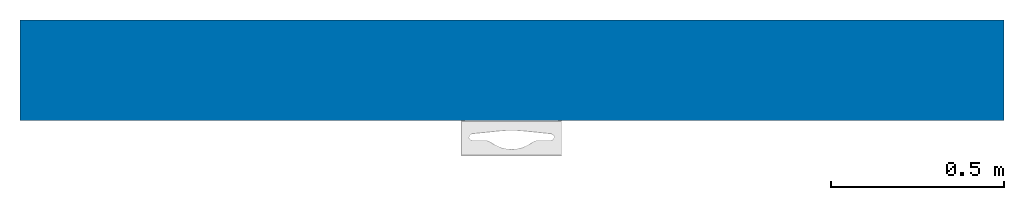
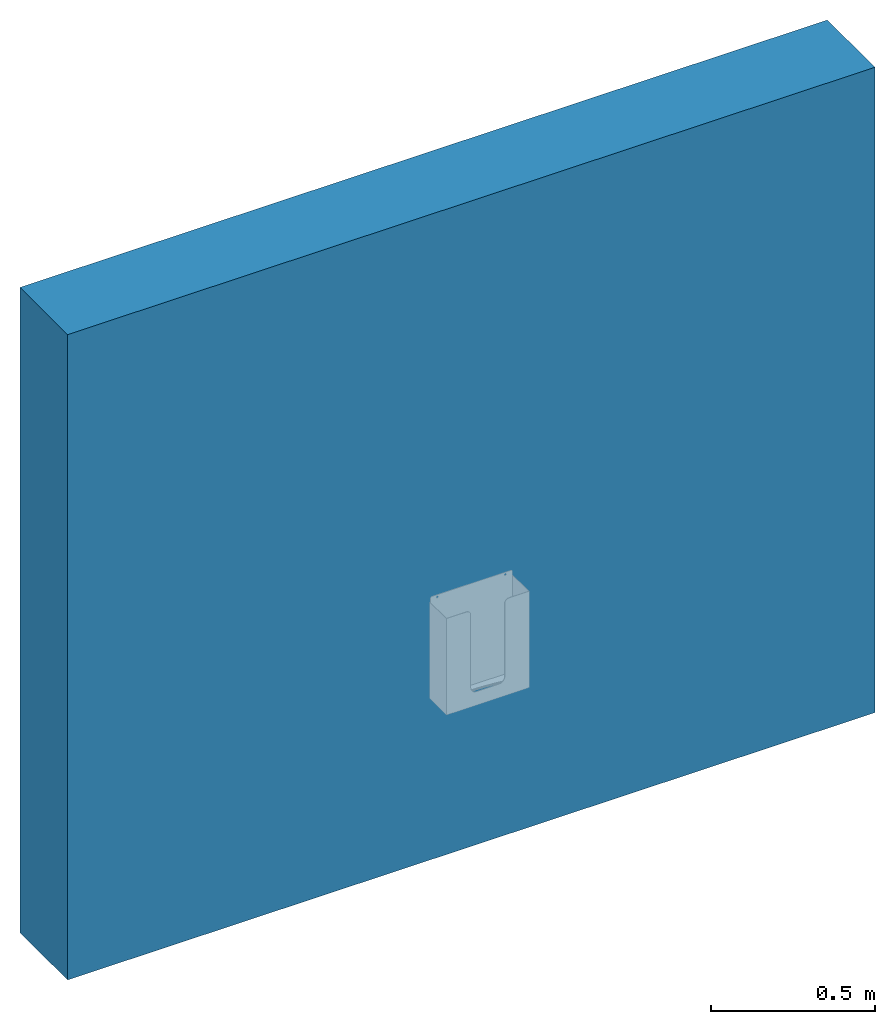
# One storey, incomplete: 1 wall.
"""IFC2X3 building model written with IfcOpenShell, lengths in millimetres."""

from ifc_helpers import new_model, entity, si_unit, converted_unit, derived_unit, direction, frame, frame_2d, origin, place, context, subcontext, project, spatial, rectangle, extrude, material, layer, layer_set, layer_usage, type_object, element, save


model = new_model("IFC2X3")

# Units and contexts
model_context = context("Model", 3, precision=0.01, world=origin(), true_north=direction((6.12303176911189e-17, 1.0)))
context_of_model = context(None, 3, precision=0.01, world=origin(), true_north=direction((6.12303176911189e-17, 1.0)))
body_context = subcontext(model_context, "Body", "Model", "MODEL_VIEW")
ifc_project = project(units=[si_unit("LENGTHUNIT", "METRE", prefix="MILLI"), si_unit("AREAUNIT", "SQUARE_METRE"), si_unit("VOLUMEUNIT", "CUBIC_METRE"), converted_unit("PLANEANGLEUNIT", "DEGREE", entity("IfcRatioMeasure", 0.0174532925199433), si_unit("PLANEANGLEUNIT", "RADIAN"), dimensions=[0, 0, 0, 0, 0, 0, 0]), si_unit("MASSUNIT", "GRAM", prefix="KILO"), si_unit("TIMEUNIT", "SECOND"), si_unit("FREQUENCYUNIT", "HERTZ"), si_unit("THERMODYNAMICTEMPERATUREUNIT", "DEGREE_CELSIUS"), derived_unit("THERMALTRANSMITTANCEUNIT", [(si_unit("MASSUNIT", "GRAM", prefix="KILO"), 1), (si_unit("THERMODYNAMICTEMPERATUREUNIT", "KELVIN"), -1), (si_unit("TIMEUNIT", "SECOND"), -3)]), derived_unit("VOLUMETRICFLOWRATEUNIT", [(si_unit("LENGTHUNIT", "METRE"), 3), (si_unit("TIMEUNIT", "SECOND"), -1)]), si_unit("ELECTRICCURRENTUNIT", "AMPERE"), si_unit("ELECTRICVOLTAGEUNIT", "VOLT"), si_unit("POWERUNIT", "WATT"), si_unit("FORCEUNIT", "NEWTON", prefix="KILO"), si_unit("ILLUMINANCEUNIT", "LUX"), si_unit("LUMINOUSFLUXUNIT", "LUMEN"), si_unit("LUMINOUSINTENSITYUNIT", "CANDELA"), si_unit("PRESSUREUNIT", "PASCAL")], contexts=[model_context, context_of_model])

# Site, building, storey
site_placement = place(None, origin())
site = spatial("IfcSite", under=ifc_project, at=site_placement, Name="Default", CompositionType="ELEMENT")
building_placement = place(site_placement, origin())
building = spatial("IfcBuilding", under=site, at=building_placement, CompositionType="ELEMENT")
storey_placement = place(building_placement, origin())
storey = spatial("IfcBuildingStorey", under=building, at=storey_placement, Name="Level 0", CompositionType="ELEMENT", Elevation=0.0)

# Wall
ifc_material_1 = material(Name="Brick, Common")
ifc_layer_1 = layer(ifc_material_1, 102.5)
ifc_material_2 = material(Name="Fiberglass Batt")
ifc_layer_2 = layer(ifc_material_2, 75.0)
ifc_material_3 = material(Name="Concrete Masonry Units _Low Density")
ifc_layer_3 = layer(ifc_material_3, 100.0)
ifc_material_4 = material(Name="Plaster")
ifc_layer_4 = layer(ifc_material_4, 12.5)
ifc_layer_set = layer_set([ifc_layer_1, ifc_layer_2, ifc_layer_3, ifc_layer_4], Name="Basic Wall:Wall-Ext_102Bwk-75Ins-100LBlk-12P")
ifc_layer_usage = layer_usage(ifc_layer_set, "AXIS2", "NEGATIVE", 145.0)
wall_type = type_object("IfcWallType", Name="Basic Wall:Wall-Ext_102Bwk-75Ins-100LBlk-12P", PredefinedType="STANDARD", material=ifc_layer_set)
wall_placement = place(storey_placement, frame((-2006.5489409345, -79.623572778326, 0.0)))
element("IfcWallStandardCase", 1, at=wall_placement, inside=storey, type_object=wall_type, material=ifc_layer_usage, Name="Basic Wall:Wall-Ext_102Bwk-75Ins-100LBlk-12P", ObjectType="Basic Wall:Wall-Ext_102Bwk-75Ins-100LBlk-12P", context=body_context, shape_type="SweptSolid", body=[
    extrude(rectangle(XDim=2840.0, YDim=290.0, at=frame_2d((1420.0, 0.0), x_axis=(-1.0, 0.0))), origin(), (0.0, 0.0, 1.0), 2400.0),
])

save(model, "model.ifc")
